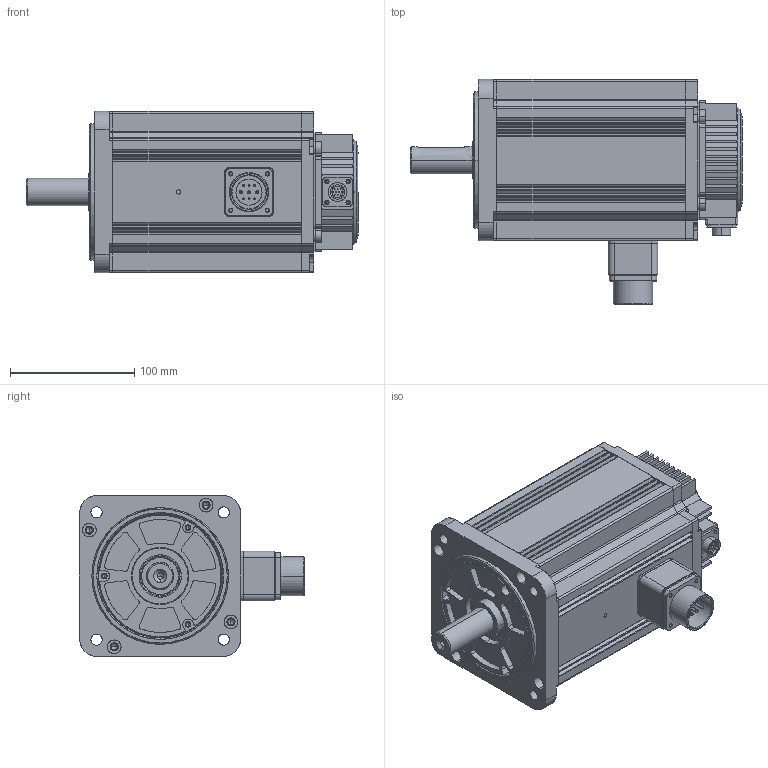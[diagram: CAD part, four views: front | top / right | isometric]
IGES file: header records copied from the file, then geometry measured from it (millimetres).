
Start section: SolidWorks IGES file using analytic representation for surfaces
Global section: file name: Z:\Products\Servo\Servo Motor\EMG-15-B24\UMM-0015EAB-B2 UMM-0015CAB-B2 CAD Files\UMM-0015EAB-B2 UMM-0015CAB-B2.IGS; native system: SolidWorks 2017; preprocessor: SolidWorks 2017; author: laorb; date: 190418.081130; units: millimetre
Bounding box: 267.5 x 181.3 x 130 mm (x, y, z)
Surface area: 397466.6 mm2 (no closed solid volume)
Topology: 0 solids, 0 shells, 1439 faces, 22600 edges, 22486 vertices
Faces by surface type: revolution 764, bspline 675
